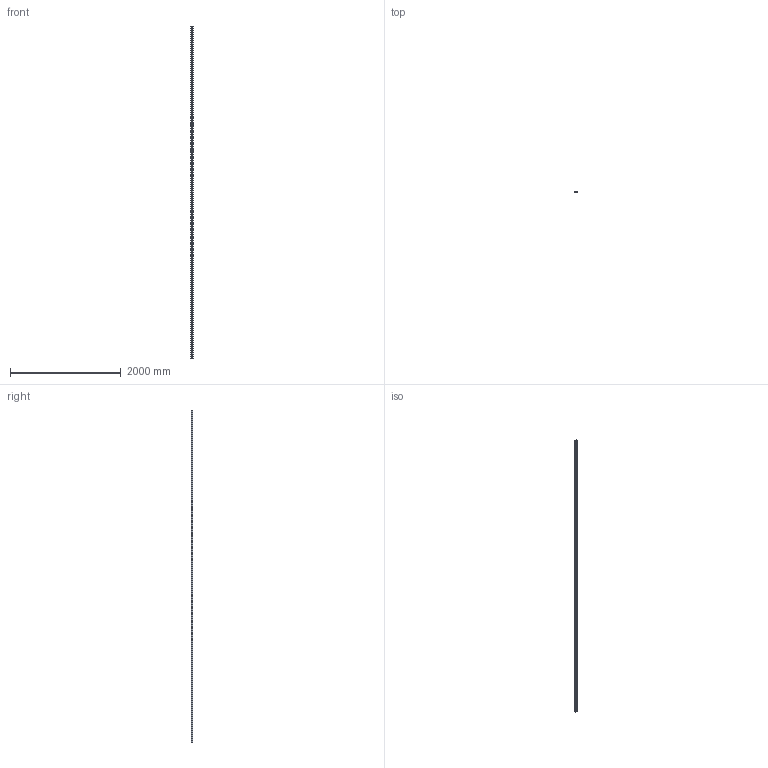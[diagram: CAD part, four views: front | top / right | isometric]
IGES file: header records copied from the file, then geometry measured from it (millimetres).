
Start section: SolidWorks IGES file using analytic representation for surfaces
Global section: file name: C:\Users\Ahmed\Desktop\Aluminium profiles\20x40 Slot 6 100mm.IGS; native system: SolidWorks 2016; preprocessor: SolidWorks 2016; author: Ahmed; date: 170805.213845; units: millimetre
Bounding box: 40 x 20 x 6000 mm (x, y, z)
Surface area: 2015464.1 mm2 (no closed solid volume)
Topology: 0 solids, 0 shells, 276 faces, 2581 edges, 2581 vertices
Faces by surface type: bspline 190, revolution 86
